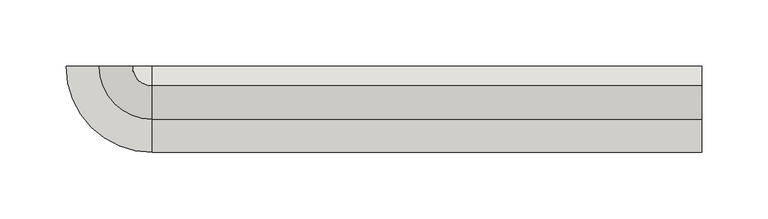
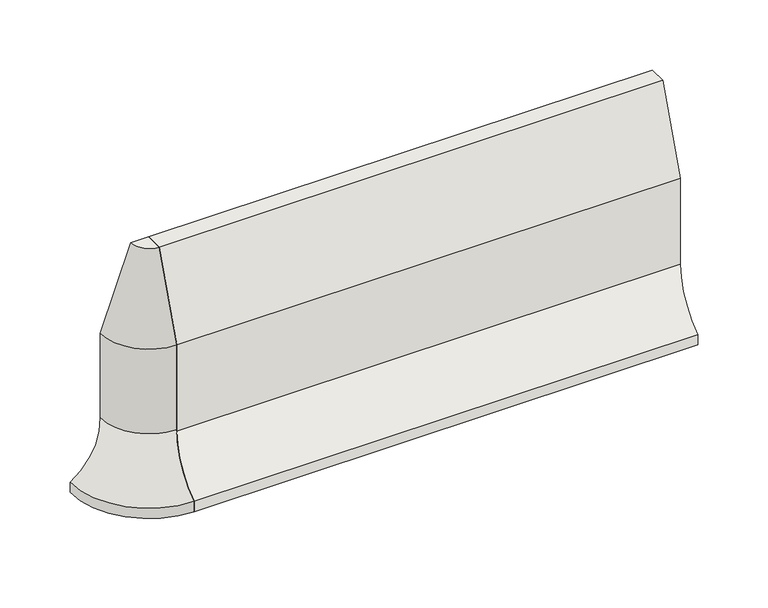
"""IFC4 building model written with IfcOpenShell, lengths in millimetres: wall geometry, GM_PC_UN_ACO kerb PB outside corner_ACO : PB H200 plain."""

import ifcopenshell
import ifcopenshell.guid

model = None  # the IFC model being written
_history = None  # IfcOwnerHistory: only IFC2X3 demands one
_inside = {}  # id of a spatial element -> (the spatial element, [elements in it])
_under = {}  # id of a project, library or spatial element -> (it, [spatial elements below it])
_declared = {}  # id of a project -> (the project, [libraries it declares])
_typed = {}  # id of a type object -> (the type object, [elements of that type])
_made_of = {}  # id of a material, layer set ... -> (it, [elements and type objects made of it])


def new_model(schema):
    """Start an empty IFC model of exactly this schema.

    Asked for "IFC4X3", IfcOpenShell would pick the latest addendum, in which some entities
    have other attributes; the version numbers below select the first issue.
    IFC2X3 requires an IfcOwnerHistory on every rooted entity: one is made here for all.
    """
    global model, _history
    if schema == "IFC4X3":
        model = ifcopenshell.file(schema_version=(4, 3, 0, 0))
    else:
        model = ifcopenshell.file(schema=schema)
    _inside.clear()
    _under.clear()
    _declared.clear()
    _typed.clear()
    _made_of.clear()
    _history = None
    if model.schema == "IFC2X3":
        org = make("IfcOrganization", Name="unknown")
        user = make(
            "IfcPersonAndOrganization",
            ThePerson=make("IfcPerson", FamilyName="unknown"),
            TheOrganization=org,
        )
        app = make(
            "IfcApplication",
            ApplicationDeveloper=org,
            Version="unknown",
            ApplicationFullName="unknown",
            ApplicationIdentifier="unknown",
        )
        _history = make(
            "IfcOwnerHistory",
            OwningUser=user,
            OwningApplication=app,
            ChangeAction="ADDED",
            CreationDate=0,
        )
    return model


def make(cls, **values):
    """One entity of the class cls with the attributes given. An attribute that is None is left unset."""
    return model.create_entity(
        cls, **{name: value for name, value in values.items() if value is not None}
    )


def rooted(cls, **values):
    """An entity with a GlobalId (a new one), such as an element, a storey or a relation."""
    return make(cls, GlobalId=ifcopenshell.guid.new(), OwnerHistory=_history, **values)


def si_unit(unit_type, name, prefix=None):
    """IfcSIUnit, for example si_unit("LENGTHUNIT", "METRE", prefix="MILLI")."""
    return make("IfcSIUnit", UnitType=unit_type, Prefix=prefix, Name=name)


def assignment(units):
    """IfcUnitAssignment: the units of a project."""
    return None if units is None else make("IfcUnitAssignment", Units=units)


def point(xyz):
    """IfcCartesianPoint."""
    return None if xyz is None else make("IfcCartesianPoint", Coordinates=xyz)


def direction(xyz):
    """IfcDirection."""
    return None if xyz is None else make("IfcDirection", DirectionRatios=xyz)


def frame(location, z_axis=None, x_axis=None):
    """IfcAxis2Placement3D, a coordinate frame: its origin and axes. An axis left out is left unset."""
    return make(
        "IfcAxis2Placement3D",
        Location=point(location),
        Axis=direction(z_axis),
        RefDirection=direction(x_axis),
    )


def frame_2d(location, x_axis=None):
    """IfcAxis2Placement2D, a coordinate frame in the plane: its origin and x axis."""
    return make(
        "IfcAxis2Placement2D", Location=point(location), RefDirection=direction(x_axis)
    )


def origin():
    """The frame at (0, 0, 0) with its axes left unset."""
    return frame((0.0, 0.0, 0.0))


def place(relative_to, where):
    """IfcLocalPlacement: puts the frame where relative to a parent placement (None: the world)."""
    return make(
        "IfcLocalPlacement", PlacementRelTo=relative_to, RelativePlacement=where
    )


def context(
    kind, dimensions, precision=None, world=None, true_north=None, identifier=None
):
    """IfcGeometricRepresentationContext, for example the 3D "Model" context."""
    return make(
        "IfcGeometricRepresentationContext",
        ContextIdentifier=identifier,
        ContextType=kind,
        CoordinateSpaceDimension=dimensions,
        Precision=precision,
        WorldCoordinateSystem=world,
        TrueNorth=true_north,
    )


def project(units=None, contexts=None):
    """IfcProject with its units and contexts."""
    return rooted(
        "IfcProject",
        Name="project",
        RepresentationContexts=contexts,
        UnitsInContext=assignment(units),
    )


def spatial(cls, under=None, at=None, **own):
    """A site, building, storey or space (cls), placed at a placement, below another one or the project."""
    s = rooted(cls, ObjectPlacement=at, **own)
    if under is not None:
        _under.setdefault(under.id(), (under, []))[1].append(s)
    return s


def polyline(points):
    """IfcPolyline through the points."""
    return make("IfcPolyline", Points=[point(p) for p in points])


def circle_curve(where, radius):
    """IfcCircle in the frame where."""
    return make("IfcCircle", Position=where, Radius=radius)


def ellipse_curve(where, semi_axis1, semi_axis2):
    """IfcEllipse in the frame where."""
    return make(
        "IfcEllipse", Position=where, SemiAxis1=semi_axis1, SemiAxis2=semi_axis2
    )


def trimmed(basis, trim1, trim2, sense, master):
    """IfcTrimmedCurve: the piece of a basis curve between two trims."""
    return make(
        "IfcTrimmedCurve",
        BasisCurve=basis,
        Trim1=trim1,
        Trim2=trim2,
        SenseAgreement=sense,
        MasterRepresentation=master,
    )


def segment(curve, same_sense, transition):
    """IfcCompositeCurveSegment."""
    return make(
        "IfcCompositeCurveSegment",
        Transition=transition,
        SameSense=same_sense,
        ParentCurve=curve,
    )


def composite_curve(segments, self_intersect=None):
    """IfcCompositeCurve: segments joined end to end."""
    return make("IfcCompositeCurve", Segments=segments, SelfIntersect=self_intersect)


def outline(outer, holes=None, kind="AREA"):
    """IfcArbitraryClosedProfileDef: a profile drawn as a closed curve; with holes, ...WithVoids."""
    if holes is None:
        return make("IfcArbitraryClosedProfileDef", ProfileType=kind, OuterCurve=outer)
    return make(
        "IfcArbitraryProfileDefWithVoids",
        ProfileType=kind,
        OuterCurve=outer,
        InnerCurves=holes,
    )


def extrude(swept, where, along, depth):
    """IfcExtrudedAreaSolid: the profile swept, set in the frame where, extruded along a direction by depth."""
    return make(
        "IfcExtrudedAreaSolid",
        SweptArea=swept,
        Position=where,
        ExtrudedDirection=direction(along),
        Depth=depth,
    )


def shape(context_of_items, identifier, shape_type, items):
    """IfcShapeRepresentation: the items that make up one representation, for example the "Body"."""
    return make(
        "IfcShapeRepresentation",
        ContextOfItems=context_of_items,
        RepresentationIdentifier=identifier,
        RepresentationType=shape_type,
        Items=items,
    )


def source(mapping_origin, context_of_items, identifier, shape_type, items):
    """IfcRepresentationMap: a shape defined once, which mapped items show again and again."""
    return make(
        "IfcRepresentationMap",
        MappingOrigin=mapping_origin,
        MappedRepresentation=shape(context_of_items, identifier, shape_type, items),
    )


def transform(
    local_origin,
    x_axis=None,
    y_axis=None,
    z_axis=None,
    scale=None,
    scale2=None,
    scale3=None,
    uniform=True,
):
    """IfcCartesianTransformationOperator3D, or its non-uniform kind. x_axis, y_axis, z_axis: its Axis1, 2, 3."""
    if uniform:
        return make(
            "IfcCartesianTransformationOperator3D",
            Axis1=direction(x_axis),
            Axis2=direction(y_axis),
            LocalOrigin=point(local_origin),
            Scale=scale,
            Axis3=direction(z_axis),
        )
    return make(
        "IfcCartesianTransformationOperator3DnonUniform",
        Axis1=direction(x_axis),
        Axis2=direction(y_axis),
        LocalOrigin=point(local_origin),
        Scale=scale,
        Axis3=direction(z_axis),
        Scale2=scale2,
        Scale3=scale3,
    )


def mapped(mapping_source, mapping_target):
    """IfcMappedItem: shows the shape of a source again, moved by a transform."""
    return make(
        "IfcMappedItem", MappingSource=mapping_source, MappingTarget=mapping_target
    )


def made_of(thing, what):
    """Note that an element or type object is made of a material, layer set ...; save() writes the relation."""
    if what is not None:
        _made_of.setdefault(what.id(), (what, []))[1].append(thing)
    return thing


def element(
    cls,
    number,
    at=None,
    inside=None,
    cuts=None,
    type_object=None,
    material=None,
    context=None,
    identifier="Body",
    shape_type=None,
    held_by="IfcProductDefinitionShape",
    body=None,
    shapes=None,
    **own,
):
    """One element of the class cls, such as IfcWall. Its Tag is "e" and its number.

    at: its placement. inside: the storey or other place that contains it. cuts: it is an
    opening in that element (IfcRelVoidsElement). A single representation is given by context,
    identifier, shape_type and body (its items); several are given by shapes. held_by: the class
    of the entity that holds the representations. save() writes the other relations.
    """
    e = rooted(cls, Tag="e%d" % number, ObjectPlacement=at, **own)
    if body is not None:
        shapes = [shape(context, identifier, shape_type, body)]
    if shapes is not None:
        e.Representation = make(held_by, Representations=shapes)
    if inside is not None:
        _inside.setdefault(inside.id(), (inside, []))[1].append(e)
    if cuts is not None:
        rooted(
            "IfcRelVoidsElement", RelatingBuildingElement=cuts, RelatedOpeningElement=e
        )
    if type_object is not None:
        _typed.setdefault(type_object.id(), (type_object, []))[1].append(e)
    return made_of(e, material)


def aggregate(whole, parts):
    """IfcRelAggregates: a whole, such as a stair, and the parts it consists of."""
    return rooted("IfcRelAggregates", RelatingObject=whole, RelatedObjects=parts)


def save(model, path):
    """Write the relations noted so far, then the file.

    IfcRelAggregates (storeys below a building ...), IfcRelContainedInSpatialStructure (elements
    in a storey), IfcRelDefinesByType, IfcRelAssociatesMaterial and IfcRelDeclares: one each for
    every whole, place, type object, material and project.
    """
    for whole, parts in _under.values():
        aggregate(whole, parts)
    for where, things in _inside.values():
        rooted(
            "IfcRelContainedInSpatialStructure",
            RelatedElements=things,
            RelatingStructure=where,
        )
    for kind, things in _typed.values():
        rooted("IfcRelDefinesByType", RelatedObjects=things, RelatingType=kind)
    for what, things in _made_of.values():
        rooted("IfcRelAssociatesMaterial", RelatedObjects=things, RelatingMaterial=what)
    for by, libraries in _declared.values():
        rooted("IfcRelDeclares", RelatingContext=by, RelatedDefinitions=libraries)
    model.write(path)


def plane_surface(at):
    """IfcPlane: the flat surface through the origin of the frame at, square to its z axis."""
    return make("IfcPlane", Position=at)


def cylinder_surface(at, radius):
    """IfcCylindricalSurface: all points at the distance radius from the z axis of the frame at."""
    return make("IfcCylindricalSurface", Position=at, Radius=radius)


def revolved_surface(curve, axis_point, axis_direction):
    """IfcSurfaceOfRevolution: the curve turned about the line through axis_point along axis_direction."""
    return make(
        "IfcSurfaceOfRevolution",
        SweptCurve=make("IfcArbitraryOpenProfileDef", ProfileType="CURVE", Curve=curve),
        AxisPosition=make("IfcAxis1Placement", Location=point(axis_point), Axis=direction(axis_direction)),
    )


def advanced_brep(points, edges, surfaces, faces):
    """IfcAdvancedBrep: a solid bounded by faces that lie on surfaces and meet in shared edges.

    An edge is (start, end): straight between two places in points (the first is 0);
    or (start, end, curve); or (start, end, curve, False) where it runs against its curve.
    A face is (place in surfaces, loops), or (place, loops, False) where it looks against
    its surface's normal. A loop lists edges by number (the first is 1), with a minus sign
    where the edge is run from its end to its start. The first loop is the outer one.
    """
    corners = [point(p) for p in points]
    vertices = [make("IfcVertexPoint", VertexGeometry=c) for c in corners]
    made = []
    for start, end, *more in edges:
        made.append(
            make(
                "IfcEdgeCurve",
                EdgeStart=vertices[start],
                EdgeEnd=vertices[end],
                EdgeGeometry=more[0] if more else make("IfcPolyline", Points=[corners[start], corners[end]]),
                SameSense=more[1] if len(more) > 1 else True,
            )
        )
    hull = []
    for where, loops, *sense in faces:
        bounds = []
        for j, loop in enumerate(loops):
            ring = [make("IfcOrientedEdge", EdgeElement=made[abs(k) - 1], Orientation=k > 0) for k in loop]
            bounds.append(
                make(
                    "IfcFaceOuterBound" if j == 0 else "IfcFaceBound",
                    Bound=make("IfcEdgeLoop", EdgeList=ring),
                    Orientation=True,
                )
            )
        hull.append(make("IfcAdvancedFace", Bounds=bounds, FaceSurface=surfaces[where], SameSense=sense[0] if sense else True))
    return make("IfcAdvancedBrep", Outer=make("IfcClosedShell", CfsFaces=hull))


def wall_21585f75(model_context):
    return source(origin(), model_context, "Body", "SolidModel", [
        extrude(outline(composite_curve([segment(polyline([(-40.0039527, 130.0277035), (-14.8642318, 200.0), (0.0, 200.0), (0.0, 0.0), (-65.0, 0.0), (-65.0, 8.9205197)]), True, "CONTINUOUS"), segment(trimmed(circle_curve(frame_2d((-94.2239515, 54.592465)), 54.2214526), [point((-65.0, 8.9205197))], [point((-40.0039527, 54.9895287))], True, "CARTESIAN"), True, "CONTINUOUS"), segment(polyline([(-40.0039527, 54.9895287), (-40.0039527, 130.0277035)]), True, "CONTINUOUS")], self_intersect=False)), frame((0.0, 0.0, 0.0), z_axis=(1.0, 0.0, 0.0), x_axis=(0.0, 1.0, 0.0)), (0.0, 0.0, 1.0), 415.0),
        advanced_brep(
        [(-40.0039527, 0.0, 130.0079616), (-14.8571389, 0.0, 200.0), (0.0, 0.0, 200.0), (0.0, 0.0, 0.0), (-65.0, 0.0, 0.0), (-65.0, 0.0, 8.9062534), (-40.0039527, 0.0, 56.1975261), (0.0, -40.0039527, 130.0079616), (0.0, -40.0039527, 56.1975261), (0.0, -65.0, 8.9062534), (0.0, -65.0, 0.0), (0.0, -14.8571389, 200.0)],
        [
            (0, 1),
            (1, 2),
            (2, 3),
            (3, 4),
            (4, 5),
            (5, 6, circle_curve(frame((-94.2016436, 0.0, 54.592465), z_axis=(0.0, -1.0, 0.0), x_axis=(-1.0, 0.0, 0.0)), 54.2214526)),
            (6, 0),
            (7, 8),
            (8, 9, circle_curve(frame((0.0, -94.2016436, 54.592465), z_axis=(-1.0, 0.0, 0.0), x_axis=(0.0, -1.0, 0.0)), 54.2214526)),
            (9, 10),
            (10, 3),
            (2, 11),
            (11, 7),
            (11, 1, circle_curve(frame((0.0, 0.0, 200.0), z_axis=(0.0, 0.0, -1.0), x_axis=(-1.0, 0.0, 0.0)), 14.8571389)),
            (0, 7, circle_curve(frame((0.0, 0.0, 130.0079616), z_axis=(0.0, 0.0, 1.0), x_axis=(-1.0, 0.0, 0.0)), 40.0039527)),
            (10, 4, circle_curve(frame((0.0, 0.0, 0.0), z_axis=(0.0, 0.0, -1.0), x_axis=(-1.0, 0.0, 0.0)), 65.0)),
            (9, 5, circle_curve(frame((0.0, 0.0, 8.9062534), z_axis=(0.0, 0.0, -1.0), x_axis=(-1.0, 0.0, 0.0)), 65.0)),
            (8, 6, circle_curve(frame((0.0, 0.0, 56.1975261), z_axis=(0.0, 0.0, -1.0), x_axis=(-1.0, 0.0, 0.0)), 40.0039527)),
        ],
        [
            plane_surface(frame((0.0, 0.0, 1459.9802581), z_axis=(0.0, 1.0, 0.0), x_axis=(-1.0, 0.0, 0.0))),
            plane_surface(frame((0.0, 0.0, 1459.9802581), z_axis=(1.0, 0.0, 0.0), x_axis=(0.0, -1.0, 0.0))),
            revolved_surface(polyline([(-40.0039527, 0.0, 130.0079616), (-14.8571389, 0.0, 200.0)]), (0.0, 0.0, 1459.9802581), (0.0, 0.0, 1.0)),
            plane_surface(frame((0.0, 0.0, 200.0), z_axis=(0.0, 0.0, 1.0), x_axis=(-1.0, 0.0, 0.0))),
            plane_surface(frame((0.0, 0.0, 0.0), z_axis=(0.0, 0.0, -1.0), x_axis=(-1.0, 0.0, 0.0))),
            cylinder_surface(frame((0.0, 0.0, 1459.9802581), z_axis=(0.0, 0.0, 1.0), x_axis=(-1.0, 0.0, 0.0)), 65.0),
            revolved_surface(trimmed(ellipse_curve(frame((-94.2016436, 0.0, 54.592465), z_axis=(0.0, -1.0, 0.0), x_axis=(-1.0, 0.0, 0.0)), 54.2214526, 54.2214526), [point((-65.0, 0.0, 8.9062534))], [point((-40.0039527, 0.0, 56.1975261))], True, "CARTESIAN"), (0.0, 0.0, 1459.9802581), (0.0, 0.0, 1.0)),
            cylinder_surface(frame((0.0, 0.0, 1459.9802581), z_axis=(0.0, 0.0, 1.0), x_axis=(-1.0, 0.0, 0.0)), 40.0039527),
        ],
        [
            (0, [[1, 2, 3, 4, 5, 6, 7]]),
            (1, [[8, 9, 10, 11, -3, 12, 13]]),
            (2, [[14, -1, 15, -13]]),
            (3, [[-2, -14, -12]]),
            (4, [[16, -4, -11]]),
            (5, [[17, -5, -16, -10]]),
            (6, [[18, -6, -17, -9]]),
            (7, [[-15, -7, -18, -8]]),
        ],
    ),
    ])


if __name__ == "__main__":
    model = new_model("IFC4")
    model_context = context("Model", 3, world=origin())
    ifc_project = project(units=[si_unit("LENGTHUNIT", "METRE", prefix="MILLI")], contexts=[model_context])
    site = spatial("IfcSite", under=ifc_project)
    building = spatial("IfcBuilding", under=site)
    placement = place(None, origin())
    wall_shape = wall_21585f75(model_context)
    element("IfcWall", 1, ObjectType="GM_PC_UN_ACO kerb PB outside corner_ACO : PB H200 plain", at=placement, inside=building, context=model_context, shape_type="MappedRepresentation", body=[
        mapped(wall_shape, transform((0.0, 0.0, 0.0), x_axis=(1.0, 0.0, 0.0), y_axis=(0.0, 1.0, 0.0), z_axis=(0.0, 0.0, 1.0))),
    ])
    save(model, "model.ifc")
